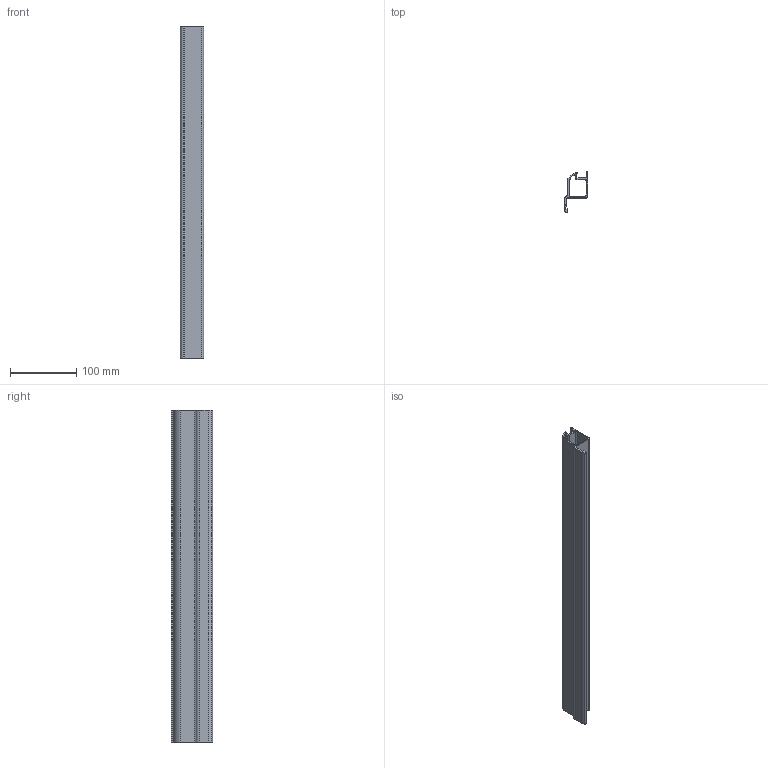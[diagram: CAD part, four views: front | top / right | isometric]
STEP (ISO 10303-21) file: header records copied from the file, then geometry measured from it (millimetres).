
FILE_DESCRIPTION (( 'STEP AP214' ), '1' );
FILE_NAME ('A40720.step', '2024-12-03T16:12:08', ( '' ), ( '' ), 'SwSTEP 2.0', 'SolidWorks 2023', '' );
FILE_SCHEMA (( 'AUTOMOTIVE_DESIGN' ));
Length unit declared in the file: millimetre
Products named in the file (1): A40720
Bounding box: 35 x 62 x 500 mm (x, y, z)
Volume: 176716.3 mm3; surface area: 160509.8 mm2
Topology: 1 solids, 1 shells, 44 faces, 126 edges, 84 vertices
Faces by surface type: plane 26, cylinder 18
Entity records: 1473 total; most frequent: CARTESIAN_POINT 255, DIRECTION 252, ORIENTED_EDGE 252, EDGE_CURVE 126, VECTOR 90, LINE 90, VERTEX_POINT 84, AXIS2_PLACEMENT_3D 81
